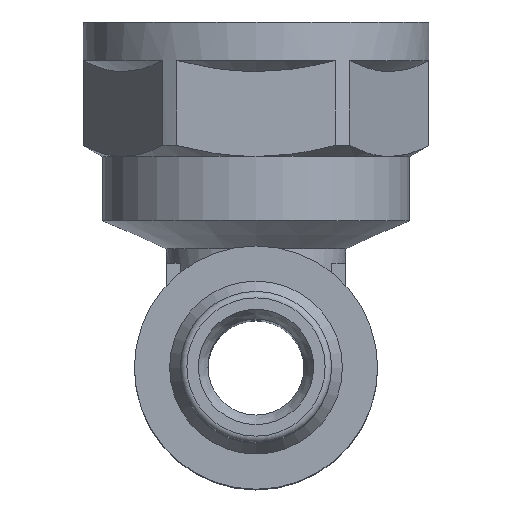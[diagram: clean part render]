
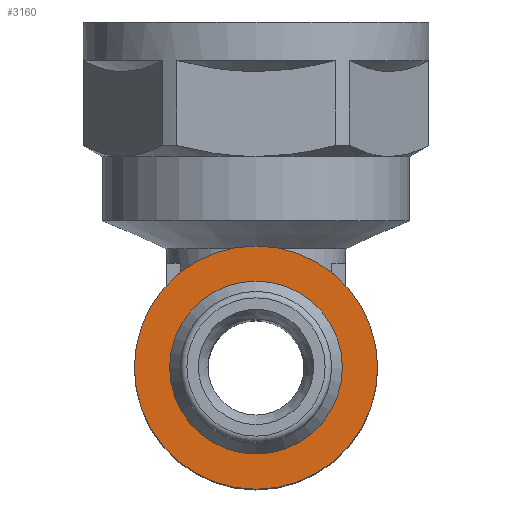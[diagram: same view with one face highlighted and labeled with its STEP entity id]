
A CAD part, top view. The second image highlights one B-rep face of the part: STEP entity #3160.
In plain terms, the highlighted planar face has unit normal (0, 0, 1).
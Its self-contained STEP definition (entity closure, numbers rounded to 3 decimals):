
#42=FACE_BOUND('',#869,.T.);
#555=PLANE('',#3490);
#679=FACE_OUTER_BOUND('',#868,.T.);
#868=EDGE_LOOP('',(#2544,#2545));
#869=EDGE_LOOP('',(#2546,#2547));
#1113=CIRCLE('',#3488,6.3);
#1114=CIRCLE('',#3489,6.3);
#1115=CIRCLE('',#3491,9.5);
#1116=CIRCLE('',#3492,9.5);
#1416=VERTEX_POINT('',#5371);
#1417=VERTEX_POINT('',#5372);
#1418=VERTEX_POINT('',#5377);
#1419=VERTEX_POINT('',#5378);
#1830=EDGE_CURVE('',#1416,#1417,#1113,.T.);
#1831=EDGE_CURVE('',#1417,#1416,#1114,.T.);
#1833=EDGE_CURVE('',#1418,#1419,#1115,.T.);
#1834=EDGE_CURVE('',#1419,#1418,#1116,.T.);
#2544=ORIENTED_EDGE('',*,*,#1833,.F.);
#2545=ORIENTED_EDGE('',*,*,#1834,.F.);
#2546=ORIENTED_EDGE('',*,*,#1830,.T.);
#2547=ORIENTED_EDGE('',*,*,#1831,.T.);
#3160=ADVANCED_FACE('',(#679,#42),#555,.T.);
#3488=AXIS2_PLACEMENT_3D('',#5373,#4177,#4178);
#3489=AXIS2_PLACEMENT_3D('',#5374,#4179,#4180);
#3490=AXIS2_PLACEMENT_3D('',#5376,#4182,#4183);
#3491=AXIS2_PLACEMENT_3D('',#5379,#4184,#4185);
#3492=AXIS2_PLACEMENT_3D('',#5380,#4186,#4187);
#4177=DIRECTION('center_axis',(0.,0.,-1.));
#4178=DIRECTION('ref_axis',(1.,0.,0.));
#4179=DIRECTION('center_axis',(0.,0.,-1.));
#4180=DIRECTION('ref_axis',(1.,0.,0.));
#4182=DIRECTION('center_axis',(0.,0.,1.));
#4183=DIRECTION('ref_axis',(1.,0.,0.));
#4184=DIRECTION('center_axis',(0.,0.,-1.));
#4185=DIRECTION('ref_axis',(1.,0.,0.));
#4186=DIRECTION('center_axis',(0.,0.,-1.));
#4187=DIRECTION('ref_axis',(1.,0.,0.));
#5371=CARTESIAN_POINT('',(0.,-6.3,62.));
#5372=CARTESIAN_POINT('',(0.,6.3,62.));
#5373=CARTESIAN_POINT('Origin',(0.,0.,62.));
#5374=CARTESIAN_POINT('Origin',(0.,0.,62.));
#5376=CARTESIAN_POINT('Origin',(0.,-9.5,62.));
#5377=CARTESIAN_POINT('',(0.,-9.5,62.));
#5378=CARTESIAN_POINT('',(0.,9.5,62.));
#5379=CARTESIAN_POINT('Origin',(0.,0.,62.));
#5380=CARTESIAN_POINT('Origin',(0.,0.,62.));
